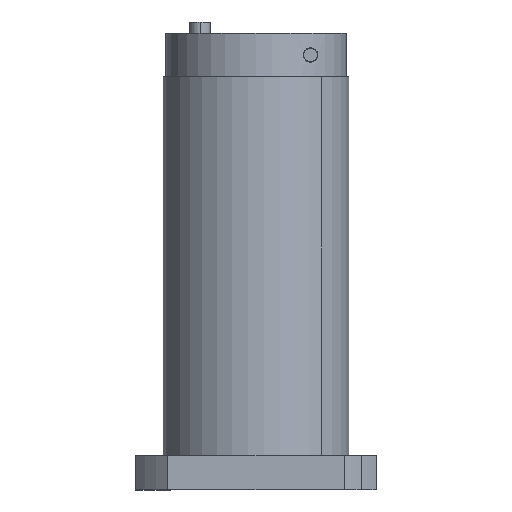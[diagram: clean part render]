
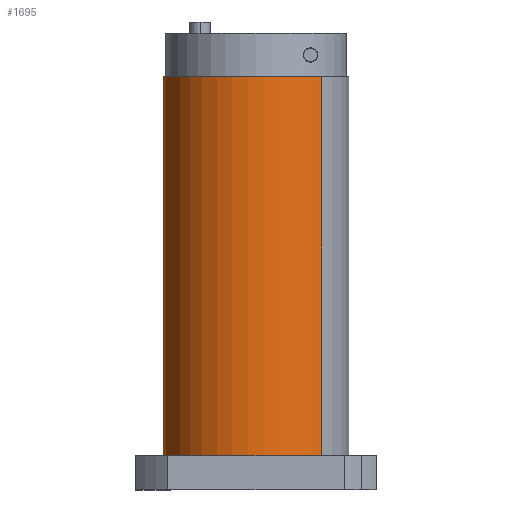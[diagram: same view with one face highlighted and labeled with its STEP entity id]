
A CAD part, left-side view. The second image highlights one B-rep face of the part: STEP entity #1695.
In plain terms, the highlighted cylindrical face has radius 32.5 mm (diameter 65 mm), a partial arc.
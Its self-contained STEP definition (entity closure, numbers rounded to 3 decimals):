
#199 = CARTESIAN_POINT ( 'NONE',  ( 1.506, 3.839, 153.078 ) ) ;
#206 = EDGE_LOOP ( 'NONE', ( #8391, #7862, #7140, #4554 ) ) ;
#438 = DIRECTION ( 'NONE',  ( 0., 0., -1. ) ) ;
#828 = AXIS2_PLACEMENT_3D ( 'NONE', #7307, #2175, #5875 ) ;
#901 = EDGE_CURVE ( 'NONE', #5994, #3087, #4478, .T. ) ;
#1604 = VERTEX_POINT ( 'NONE', #6640 ) ;
#1695 = ADVANCED_FACE ( 'NONE', ( #5381 ), #5426, .T. ) ;
#2175 = DIRECTION ( 'NONE',  ( 0., 0., -1. ) ) ;
#2250 = DIRECTION ( 'NONE',  ( 0., 0., -1. ) ) ;
#2537 = CARTESIAN_POINT ( 'NONE',  ( 24.487, 26.82, 219.078 ) ) ;
#2747 = EDGE_CURVE ( 'NONE', #1604, #5994, #5448, .T. ) ;
#2869 = LINE ( 'NONE', #3457, #3070 ) ;
#2910 = VERTEX_POINT ( 'NONE', #6164 ) ;
#3070 = VECTOR ( 'NONE', #438, 1000. ) ;
#3087 = VERTEX_POINT ( 'NONE', #7198 ) ;
#3457 = CARTESIAN_POINT ( 'NONE',  ( -21.475, -19.142, 153.078 ) ) ;
#3955 = DIRECTION ( 'NONE',  ( -0.707, -0.707, 0. ) ) ;
#4323 = DIRECTION ( 'NONE',  ( 0., 0., -1. ) ) ;
#4381 = AXIS2_PLACEMENT_3D ( 'NONE', #199, #8454, #3955 ) ;
#4478 = LINE ( 'NONE', #5363, #8955 ) ;
#4554 = ORIENTED_EDGE ( 'NONE', *, *, #4790, .F. ) ;
#4790 = EDGE_CURVE ( 'NONE', #1604, #2910, #2869, .T. ) ;
#5079 = CARTESIAN_POINT ( 'NONE',  ( 1.506, 3.839, 219.078 ) ) ;
#5363 = CARTESIAN_POINT ( 'NONE',  ( 24.487, 26.82, 153.078 ) ) ;
#5381 = FACE_OUTER_BOUND ( 'NONE', #206, .T. ) ;
#5426 = CYLINDRICAL_SURFACE ( 'NONE', #4381, 32.5 ) ;
#5448 = CIRCLE ( 'NONE', #8891, 32.5 ) ;
#5875 = DIRECTION ( 'NONE',  ( -0.707, -0.707, 0. ) ) ;
#5994 = VERTEX_POINT ( 'NONE', #2537 ) ;
#6164 = CARTESIAN_POINT ( 'NONE',  ( -21.475, -19.142, 87.078 ) ) ;
#6427 = DIRECTION ( 'NONE',  ( -0.707, -0.707, 0. ) ) ;
#6559 = CIRCLE ( 'NONE', #828, 32.5 ) ;
#6640 = CARTESIAN_POINT ( 'NONE',  ( -21.475, -19.142, 219.078 ) ) ;
#7140 = ORIENTED_EDGE ( 'NONE', *, *, #7266, .F. ) ;
#7198 = CARTESIAN_POINT ( 'NONE',  ( 24.487, 26.82, 87.078 ) ) ;
#7266 = EDGE_CURVE ( 'NONE', #2910, #3087, #6559, .T. ) ;
#7307 = CARTESIAN_POINT ( 'NONE',  ( 1.506, 3.839, 87.078 ) ) ;
#7862 = ORIENTED_EDGE ( 'NONE', *, *, #901, .T. ) ;
#8391 = ORIENTED_EDGE ( 'NONE', *, *, #2747, .T. ) ;
#8454 = DIRECTION ( 'NONE',  ( 0., 0., -1. ) ) ;
#8891 = AXIS2_PLACEMENT_3D ( 'NONE', #5079, #4323, #6427 ) ;
#8955 = VECTOR ( 'NONE', #2250, 1000. ) ;
